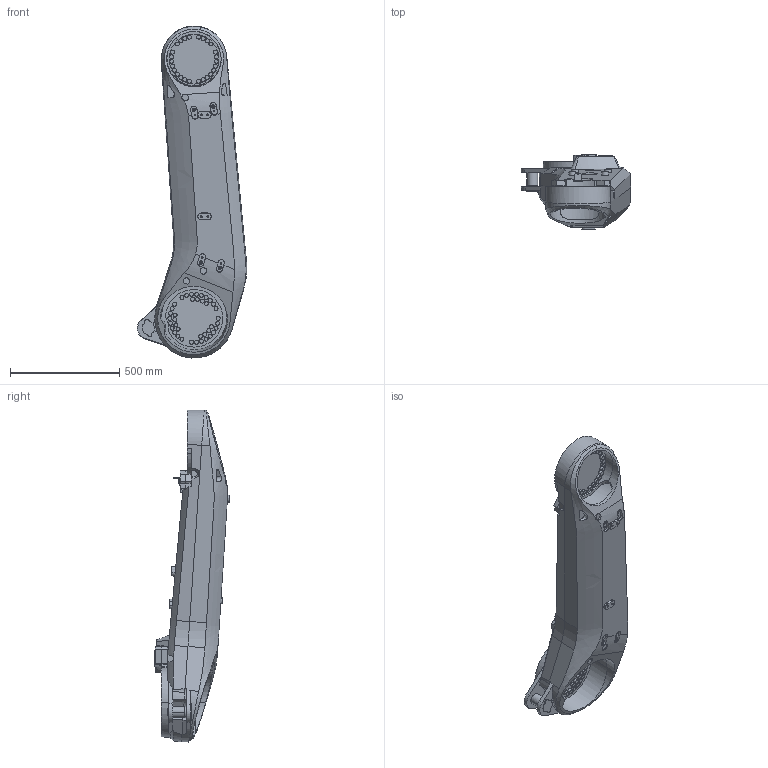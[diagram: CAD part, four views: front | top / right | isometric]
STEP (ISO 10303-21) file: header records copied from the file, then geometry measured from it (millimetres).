
FILE_DESCRIPTION (( 'STEP AP214' ), '1' );
FILE_NAME ('IRB6720-LID_215kg-265_OC_00_LINK02_CAD.step', '2026-05-26T08:19:30', ( '' ), ( '' ), 'SwSTEP 2.0', 'SolidWorks 2024', '' );
FILE_SCHEMA (( 'AUTOMOTIVE_DESIGN' ));
Length unit declared in the file: millimetre
Products named in the file (1): IRB6720-LID_215kg-265_OC_00_LINK02_CAD
Bounding box: 500.81 x 342 x 1517.45 mm (x, y, z)
Volume: 69795095.2 mm3; surface area: 1926779.5 mm2
Topology: 1 solids, 1 shells, 767 faces, 1858 edges, 1185 vertices
Faces by surface type: plane 330, cylinder 256, bspline 105, cone 76
Entity records: 58490 total; most frequent: CARTESIAN_POINT 33018, ORIENTED_EDGE 3648, DIRECTION 3225, EDGE_CURVE 1824, AXIS2_PLACEMENT_3D 1191, VERTEX_POINT 1185, EDGE_LOOP 895, VECTOR 843
